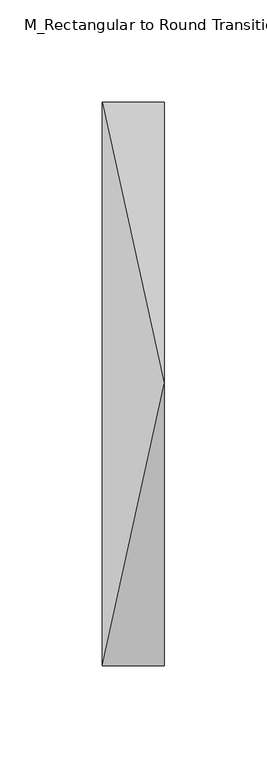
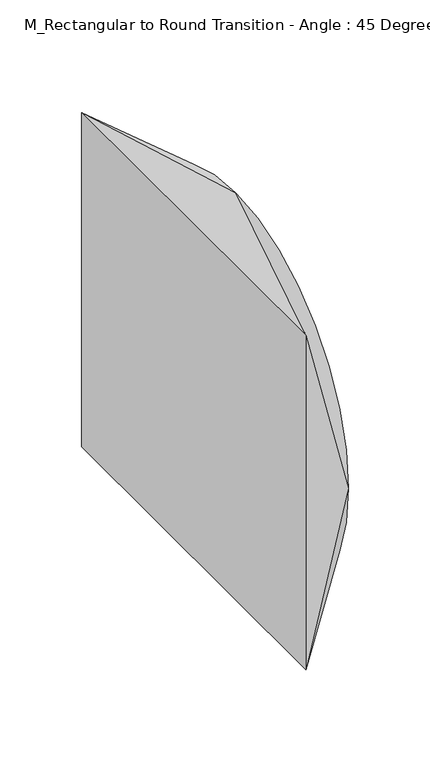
"""IFC4 building model written with IfcOpenShell, lengths in millimetres: duct fitting geometry, M_Rectangular to Round Transition - Angle : 45 Degree."""

from ifc_helpers import new_model, si_unit, frame, origin, place, context, project, spatial, circle_curve, source, transform, mapped, element, save
from ifc_brep_helpers import plane_surface, spline_surface, advanced_brep


def m_rectangular_to_round_transition_angle_45_degree_cfce05a4(model_context):
    return source(origin(), model_context, "Body", "AdvancedBrep", [
        advanced_brep(
        [(0.0, -137.5, -125.0), (0.0, -137.5, 125.0), (0.0, 137.5, 125.0), (0.0, 137.5, -125.0), (30.1775988, -137.5, 0.05), (30.1775988, 0.0, -137.45), (30.1775988, 137.5, 0.05), (30.1775988, 0.0, 137.55)],
        [
            (0, 1),
            (1, 2),
            (2, 3),
            (3, 0),
            (4, 5, circle_curve(frame((30.1775988, 0.0, 0.05), z_axis=(1.0, 0.0, 0.0), x_axis=(0.0, -1.0, 0.0)), 137.5)),
            (5, 6, circle_curve(frame((30.1775988, 0.0, 0.05), z_axis=(1.0, 0.0, 0.0), x_axis=(0.0, -1.0, 0.0)), 137.5)),
            (6, 7, circle_curve(frame((30.1775988, 0.0, 0.05), z_axis=(1.0, 0.0, 0.0), x_axis=(0.0, -1.0, 0.0)), 137.5)),
            (7, 4, circle_curve(frame((30.1775988, 0.0, 0.05), z_axis=(1.0, 0.0, 0.0), x_axis=(0.0, -1.0, 0.0)), 137.5)),
            (0, 4),
            (4, 1),
            (7, 1),
            (7, 2),
            (6, 2),
            (6, 3),
            (5, 3),
            (5, 0),
        ],
        [
            plane_surface(frame((0.0, 0.0, 0.0), z_axis=(-1.0, 0.0, 0.0), x_axis=(0.0, 1.0, 0.0))),
            plane_surface(frame((30.1775988, 0.0, 0.05), z_axis=(1.0, 0.0, 0.0), x_axis=(0.0, 1.0, 0.0))),
            plane_surface(frame((30.1775988, -137.5, 0.05), z_axis=(0.0, -1.0, 0.0), x_axis=(0.0, 0.0, 1.0))),
            spline_surface(2, 1, [[(30.1775988, -137.5, 0.05), (0.0, -137.5, 125.0)], [(30.1775988, -137.5, 137.55), (0.0, -137.5, 125.0)], [(30.1775988, 0.0, 137.55), (0.0, -137.5, 125.0)]], [3, 3], [2, 2], [0.0, 1.0], [0.0, 1.0], weights=[[1.0, 1.0], [0.7071067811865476, 0.7071067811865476], [1.0, 1.0]]),
            plane_surface(frame((30.1775988, 0.0, 137.55), z_axis=(-0.3839896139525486, 0.0, 0.9233374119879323), x_axis=(0.0, 1.0, 0.0))),
            spline_surface(2, 1, [[(30.1775988, 0.0, 137.55), (0.0, 137.5, 125.0)], [(30.1775988, 137.5, 137.55), (0.0, 137.5, 125.0)], [(30.1775988, 137.5, 0.05), (0.0, 137.5, 125.0)]], [3, 3], [2, 2], [0.0, 1.0], [0.0, 1.0], weights=[[1.0, 1.0], [0.7071067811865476, 0.7071067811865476], [1.0, 1.0]]),
            plane_surface(frame((30.1775988, 137.5, 0.05), z_axis=(0.0, 1.0, 0.0), x_axis=(0.0, 0.0, -1.0))),
            spline_surface(2, 1, [[(30.1775988, 137.5, 0.05), (0.0, 137.5, -125.0)], [(30.1775988, 137.5, -137.45), (0.0, 137.5, -125.0)], [(30.1775988, 0.0, -137.45), (0.0, 137.5, -125.0)]], [3, 3], [2, 2], [0.0, 1.0], [0.0, 1.0], weights=[[1.0, 1.0], [0.7071067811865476, 0.7071067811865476], [1.0, 1.0]]),
            plane_surface(frame((30.1775988, 0.0, -137.45), z_axis=(-0.38137648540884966, 0.0, -0.9244198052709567), x_axis=(0.0, -1.0, 0.0))),
            spline_surface(2, 1, [[(30.1775988, 0.0, -137.45), (0.0, -137.5, -125.0)], [(30.1775988, -137.5, -137.45), (0.0, -137.5, -125.0)], [(30.1775988, -137.5, 0.05), (0.0, -137.5, -125.0)]], [3, 3], [2, 2], [0.0, 1.0], [0.0, 1.0], weights=[[1.0, 1.0], [0.7071067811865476, 0.7071067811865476], [1.0, 1.0]]),
        ],
        [
            (0, [[1, 2, 3, 4]]),
            (1, [[5, 6, 7, 8]]),
            (2, [[-1, 9, 10]]),
            (3, [[-8, 11, -10]]),
            (4, [[-2, -11, 12]]),
            (5, [[-7, 13, -12]]),
            (6, [[-3, -13, 14]]),
            (7, [[-6, 15, -14]]),
            (8, [[-4, -15, 16]]),
            (9, [[-5, -9, -16]]),
        ],
    ),
        advanced_brep(
        [(0.0, -137.5, -125.0), (0.0, -137.5, 125.0), (0.0, 137.5, 125.0), (0.0, 137.5, -125.0), (30.1775988, -137.5, 0.05), (30.1775988, 0.0, -137.45), (30.1775988, 137.5, 0.05), (30.1775988, 0.0, 137.55)],
        [
            (0, 1),
            (1, 2),
            (2, 3),
            (3, 0),
            (4, 5, circle_curve(frame((30.1775988, 0.0, 0.05), z_axis=(1.0, 0.0, 0.0), x_axis=(0.0, -1.0, 0.0)), 137.5)),
            (5, 6, circle_curve(frame((30.1775988, 0.0, 0.05), z_axis=(1.0, 0.0, 0.0), x_axis=(0.0, -1.0, 0.0)), 137.5)),
            (6, 7, circle_curve(frame((30.1775988, 0.0, 0.05), z_axis=(1.0, 0.0, 0.0), x_axis=(0.0, -1.0, 0.0)), 137.5)),
            (7, 4, circle_curve(frame((30.1775988, 0.0, 0.05), z_axis=(1.0, 0.0, 0.0), x_axis=(0.0, -1.0, 0.0)), 137.5)),
            (0, 4),
            (4, 1),
            (7, 1),
            (7, 2),
            (6, 2),
            (6, 3),
            (5, 3),
            (5, 0),
        ],
        [
            plane_surface(frame((0.0, 0.0, 0.0), z_axis=(-1.0, 0.0, 0.0), x_axis=(0.0, 1.0, 0.0))),
            plane_surface(frame((30.1775988, 0.0, 0.05), z_axis=(1.0, 0.0, 0.0), x_axis=(0.0, 1.0, 0.0))),
            plane_surface(frame((30.1775988, -137.5, 0.05), z_axis=(0.0, -1.0, 0.0), x_axis=(0.0, 0.0, 1.0))),
            spline_surface(2, 1, [[(30.1775988, -137.5, 0.05), (0.0, -137.5, 125.0)], [(30.1775988, -137.5, 137.55), (0.0, -137.5, 125.0)], [(30.1775988, 0.0, 137.55), (0.0, -137.5, 125.0)]], [3, 3], [2, 2], [0.0, 1.0], [0.0, 1.0], weights=[[1.0, 1.0], [0.7071067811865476, 0.7071067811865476], [1.0, 1.0]]),
            plane_surface(frame((30.1775988, 0.0, 137.55), z_axis=(-0.38398961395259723, 0.0, 0.9233374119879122), x_axis=(0.0, 1.0, 0.0))),
            spline_surface(2, 1, [[(30.1775988, 0.0, 137.55), (0.0, 137.5, 125.0)], [(30.1775988, 137.5, 137.55), (0.0, 137.5, 125.0)], [(30.1775988, 137.5, 0.05), (0.0, 137.5, 125.0)]], [3, 3], [2, 2], [0.0, 1.0], [0.0, 1.0], weights=[[1.0, 1.0], [0.7071067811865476, 0.7071067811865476], [1.0, 1.0]]),
            plane_surface(frame((30.1775988, 137.5, 0.05), z_axis=(0.0, 1.0, 0.0), x_axis=(0.0, 0.0, -1.0))),
            spline_surface(2, 1, [[(30.1775988, 137.5, 0.05), (0.0, 137.5, -125.0)], [(30.1775988, 137.5, -137.45), (0.0, 137.5, -125.0)], [(30.1775988, 0.0, -137.45), (0.0, 137.5, -125.0)]], [3, 3], [2, 2], [0.0, 1.0], [0.0, 1.0], weights=[[1.0, 1.0], [0.7071067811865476, 0.7071067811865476], [1.0, 1.0]]),
            plane_surface(frame((30.1775988, 0.0, -137.45), z_axis=(-0.3813764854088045, 0.0, -0.9244198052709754), x_axis=(0.0, -1.0, 0.0))),
            spline_surface(2, 1, [[(30.1775988, 0.0, -137.45), (0.0, -137.5, -125.0)], [(30.1775988, -137.5, -137.45), (0.0, -137.5, -125.0)], [(30.1775988, -137.5, 0.05), (0.0, -137.5, -125.0)]], [3, 3], [2, 2], [0.0, 1.0], [0.0, 1.0], weights=[[1.0, 1.0], [0.7071067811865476, 0.7071067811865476], [1.0, 1.0]]),
        ],
        [
            (0, [[1, 2, 3, 4]]),
            (1, [[5, 6, 7, 8]]),
            (2, [[-1, 9, 10]]),
            (3, [[-8, 11, -10]]),
            (4, [[-2, -11, 12]]),
            (5, [[-7, 13, -12]]),
            (6, [[-3, -13, 14]]),
            (7, [[-6, 15, -14]]),
            (8, [[-4, -15, 16]]),
            (9, [[-5, -9, -16]]),
        ],
    ),
        advanced_brep(
        [(30.1775988, 0.0, 137.55), (30.1775988, -137.5, 0.05), (30.1775988, 0.0, -137.45), (30.1775988, 137.5, 0.05), (0.0, -137.5, 125.0), (0.0, 137.5, 125.0), (0.0, 137.5, -125.0), (0.0, -137.5, -125.0)],
        [
            (0, 1, circle_curve(frame((30.1775988, 0.0, 0.05), z_axis=(1.0, 0.0, 0.0), x_axis=(0.0, 1.0, 0.0)), 137.5)),
            (1, 2, circle_curve(frame((30.1775988, 0.0, 0.05), z_axis=(1.0, 0.0, 0.0), x_axis=(0.0, 1.0, 0.0)), 137.5)),
            (2, 3, circle_curve(frame((30.1775988, 0.0, 0.05), z_axis=(1.0, 0.0, 0.0), x_axis=(0.0, 1.0, 0.0)), 137.5)),
            (3, 0, circle_curve(frame((30.1775988, 0.0, 0.05), z_axis=(1.0, 0.0, 0.0), x_axis=(0.0, 1.0, 0.0)), 137.5)),
            (4, 5),
            (5, 6),
            (6, 7),
            (7, 4),
            (0, 4),
            (4, 1),
            (7, 1),
            (7, 2),
            (6, 2),
            (6, 3),
            (5, 3),
            (5, 0),
        ],
        [
            plane_surface(frame((30.1775988, 0.0, 0.05), z_axis=(1.0, 0.0, 0.0), x_axis=(0.0, 0.0, -1.0))),
            plane_surface(frame((0.0, 0.0, 0.0), z_axis=(-1.0, 0.0, 0.0), x_axis=(0.0, 0.0, -1.0))),
            spline_surface(2, 1, [[(0.0, -137.5, 125.0), (30.1775988, 0.0, 137.55)], [(0.0, -137.5, 125.0), (30.1775988, -137.5, 137.55)], [(0.0, -137.5, 125.0), (30.1775988, -137.5, 0.05)]], [3, 3], [2, 2], [0.0, 1.0], [0.0, 1.0], weights=[[1.0, 1.0], [0.7071067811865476, 0.7071067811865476], [1.0, 1.0]]),
            plane_surface(frame((0.0, -137.5, 0.0), z_axis=(0.0, -1.0, 0.0), x_axis=(0.0, 0.0, -1.0))),
            spline_surface(2, 1, [[(0.0, -137.5, -125.0), (30.1775988, -137.5, 0.05)], [(0.0, -137.5, -125.0), (30.1775988, -137.5, -137.45)], [(0.0, -137.5, -125.0), (30.1775988, 0.0, -137.45)]], [3, 3], [2, 2], [0.0, 1.0], [0.0, 1.0], weights=[[1.0, 1.0], [0.7071067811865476, 0.7071067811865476], [1.0, 1.0]]),
            plane_surface(frame((0.0, 0.0, -125.0), z_axis=(-0.381376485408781, 0.0, -0.9244198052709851), x_axis=(0.0, 1.0, 0.0))),
            spline_surface(2, 1, [[(0.0, 137.5, -125.0), (30.1775988, 0.0, -137.45)], [(0.0, 137.5, -125.0), (30.1775988, 137.5, -137.45)], [(0.0, 137.5, -125.0), (30.1775988, 137.5, 0.05)]], [3, 3], [2, 2], [0.0, 1.0], [0.0, 1.0], weights=[[1.0, 1.0], [0.7071067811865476, 0.7071067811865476], [1.0, 1.0]]),
            plane_surface(frame((0.0, 137.5, 0.0), z_axis=(0.0, 1.0, 0.0), x_axis=(0.0, 0.0, 1.0))),
            spline_surface(2, 1, [[(0.0, 137.5, 125.0), (30.1775988, 137.5, 0.05)], [(0.0, 137.5, 125.0), (30.1775988, 137.5, 137.55)], [(0.0, 137.5, 125.0), (30.1775988, 0.0, 137.55)]], [3, 3], [2, 2], [0.0, 1.0], [0.0, 1.0], weights=[[1.0, 1.0], [0.7071067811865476, 0.7071067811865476], [1.0, 1.0]]),
            plane_surface(frame((0.0, 0.0, 125.0), z_axis=(-0.3839896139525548, 0.0, 0.9233374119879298), x_axis=(0.0, -1.0, 0.0))),
        ],
        [
            (0, [[1, 2, 3, 4]]),
            (1, [[5, 6, 7, 8]]),
            (2, [[-1, 9, 10]]),
            (3, [[-8, 11, -10]]),
            (4, [[-2, -11, 12]]),
            (5, [[-7, 13, -12]]),
            (6, [[-3, -13, 14]]),
            (7, [[-6, 15, -14]]),
            (8, [[-4, -15, 16]]),
            (9, [[-5, -9, -16]]),
        ],
    ),
    ])


if __name__ == "__main__":
    model = new_model("IFC4")
    model_context = context("Model", 3, world=origin())
    ifc_project = project(units=[si_unit("LENGTHUNIT", "METRE", prefix="MILLI")], contexts=[model_context])
    site = spatial("IfcSite", under=ifc_project)
    building = spatial("IfcBuilding", under=site)
    placement = place(None, origin())
    m_rectangular_to_round_transition_angle_45_degree_shape = m_rectangular_to_round_transition_angle_45_degree_cfce05a4(model_context)
    element("IfcDuctFitting", 1, ObjectType="M_Rectangular to Round Transition - Angle : 45 Degree", at=placement, inside=building, context=model_context, shape_type="MappedRepresentation", body=[
        mapped(m_rectangular_to_round_transition_angle_45_degree_shape, transform((0.0, 0.0, 0.0), x_axis=(1.0, 0.0, 0.0), y_axis=(0.0, 1.0, 0.0), z_axis=(0.0, 0.0, 1.0))),
    ])
    save(model, "model.ifc")
